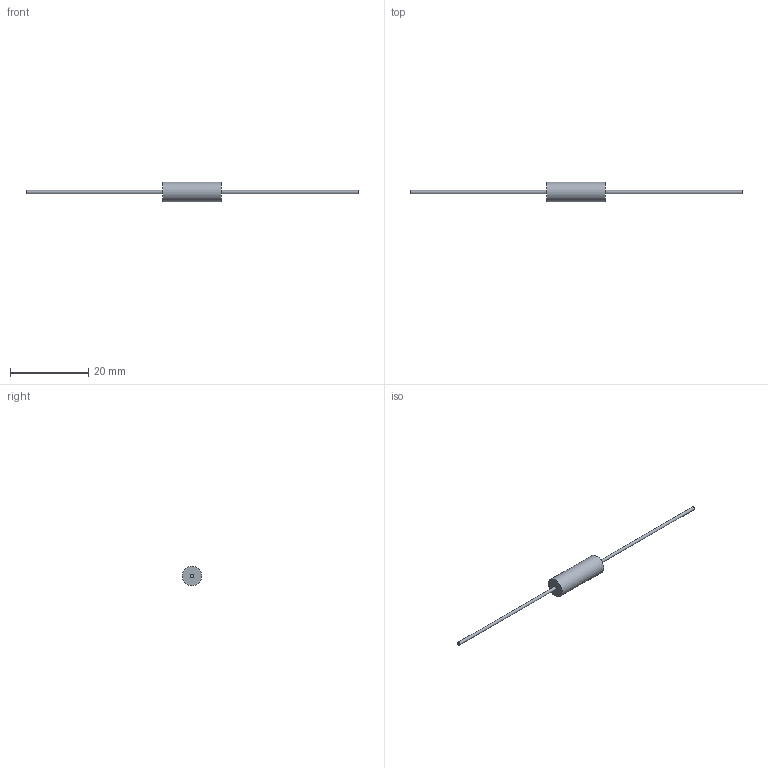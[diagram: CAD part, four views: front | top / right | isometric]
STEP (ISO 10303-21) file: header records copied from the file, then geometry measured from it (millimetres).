
FILE_DESCRIPTION(/* description */ (''),/* implementation_level */ '2;1');
FILE_NAME(/* name */ 'C:\Users\mulla\Documents\SEI Models\ASRM\ASRM2.stp',/* time_stamp */ '2019-06-06T16:46:16-04:00',/* author */ ('mulla'),/* organization */ (''),/* preprocessor_version */ 'ST-DEVELOPER v16.1',/* originating_system */ 'Autodesk Inventor 2016',/* authorisation */ '');
FILE_SCHEMA (('AUTOMOTIVE_DESIGN { 1 0 10303 214 3 1 1 }'));
Length unit declared in the file: millimetre
Products named in the file (1): ASRM2
Bounding box: 85 x 5 x 5 mm (x, y, z)
Volume: 329.7 mm3; surface area: 452.8 mm2
Topology: 3 solids, 3 shells, 9 faces, 9 edges, 6 vertices
Faces by surface type: plane 6, cylinder 3
Full cylindrical faces by diameter (mm): 0.8 x2, 5 x1
Entity records: 176 total; most frequent: DIRECTION 32, CARTESIAN_POINT 22, AXIS2_PLACEMENT_3D 16, EDGE_LOOP 12, ORIENTED_EDGE 12, FACE_OUTER_BOUND 9, ADVANCED_FACE 9, PLANE 6
